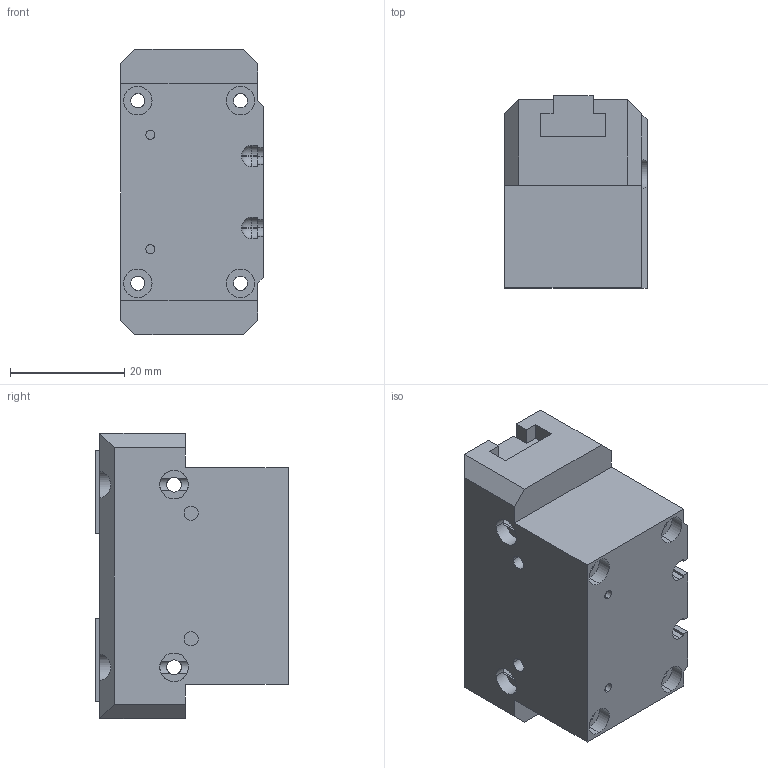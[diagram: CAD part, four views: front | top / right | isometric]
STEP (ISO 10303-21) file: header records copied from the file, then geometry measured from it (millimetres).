
FILE_DESCRIPTION (( 'STEP AP203' ), '1' );
FILE_NAME ('dh1905no.STEP', '2011-08-03T07:53:28', ( 'Stefano' ), ( 'Gimatic' ), 'SwSTEP 2.0', 'SolidWorks 2010', '' );
FILE_SCHEMA (( 'CONFIG_CONTROL_DESIGN' ));
Length unit declared in the file: millimetre
Products named in the file (3): corpoprolungato_DH19; dh1905no; griffa_DH19
Assembly tree (3 placements, depth 2):
  dh1905no
    griffa_DH19  x2
    corpoprolungato_DH19
Bounding box: 25 x 33.7 x 50 mm (x, y, z)
Volume: 31619.7 mm3; surface area: 11985.6 mm2
Topology: 3 solids, 3 shells, 188 faces, 508 edges, 328 vertices
Faces by surface type: plane 98, cylinder 86, sphere 4
Entity records: 5913 total; most frequent: CARTESIAN_POINT 1329, ORIENTED_EDGE 900, DIRECTION 888, EDGE_CURVE 450, AXIS2_PLACEMENT_3D 315, VERTEX_POINT 292, LINE 258, VECTOR 258
